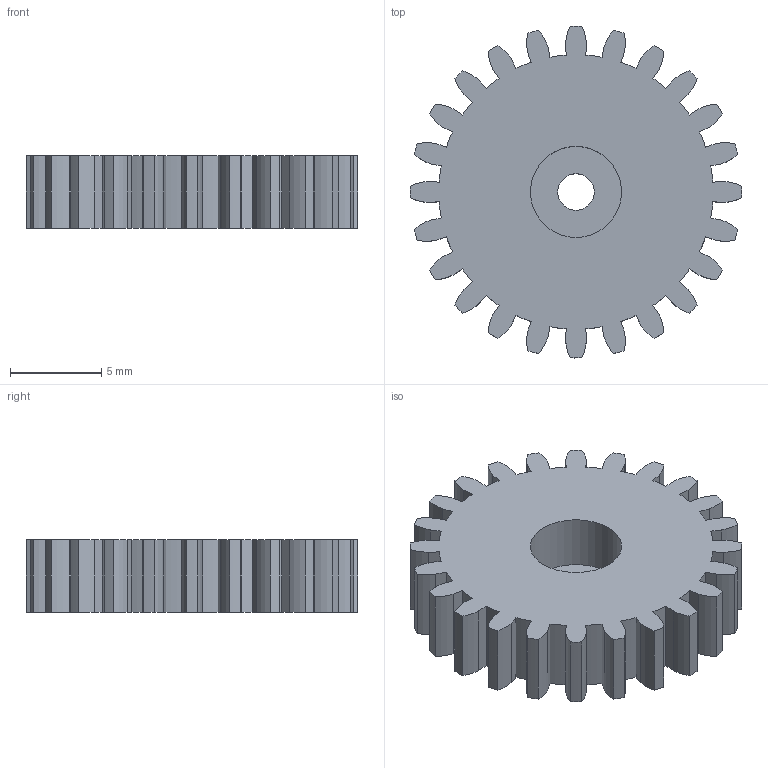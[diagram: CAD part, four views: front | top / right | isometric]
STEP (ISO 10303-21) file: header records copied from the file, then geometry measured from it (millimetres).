
FILE_DESCRIPTION(/* description */ ('STEP AP242 Edition 2','CAx-IF Rec.Pracs.---Representation and Presentation of Product Manufacturing Information (PMI)---4.0---2014-10-13','CAx-IF Rec.Pracs.---3D Tessellated Geometry---0.4---2014-09-14','2;1','CAx-IF Rec.Pracs.---User Defined Attributes---1.5---2016-08-15'),/* implementation_level */ '2;1');
FILE_NAME(/* name */ '653499be-f851-4152-afa5-98092dd1f95a',/* time_stamp */ '2026-09-28T10:12:44Z',/* author */ (''),/* organization */ (''),/* preprocessor_version */ 'ST-DEVELOPER v20',/* originating_system */ 'ONSHAPE BY PTC INC, 1.221',/* authorisation */ ' ');
FILE_SCHEMA (('AP242_MANAGED_MODEL_BASED_3D_ENGINEERING_MIM_LF { 1 0 10303 442 3 1 4 }'));
Length unit declared in the file: metre
Products named in the file (1): gripper_spur_gear v1:1__Körper1
Bounding box: 18.2 x 18.2 x 4 mm (x, y, z)
Volume: 806.4 mm3; surface area: 940.7 mm2
Topology: 1 solids, 1 shells, 149 faces, 438 edges, 292 vertices
Faces by surface type: cylinder 98, plane 51
Full cylindrical faces by diameter (mm): 2 x1, 5 x1
Entity records: 5112 total; most frequent: CARTESIAN_POINT 1022, DIRECTION 884, ORIENTED_EDGE 872, EDGE_CURVE 436, AXIS2_PLACEMENT_3D 346, VERTEX_POINT 292, CIRCLE 196, LINE 192
